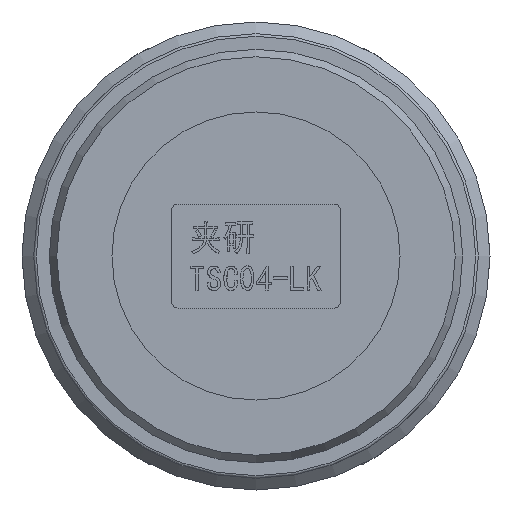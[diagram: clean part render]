
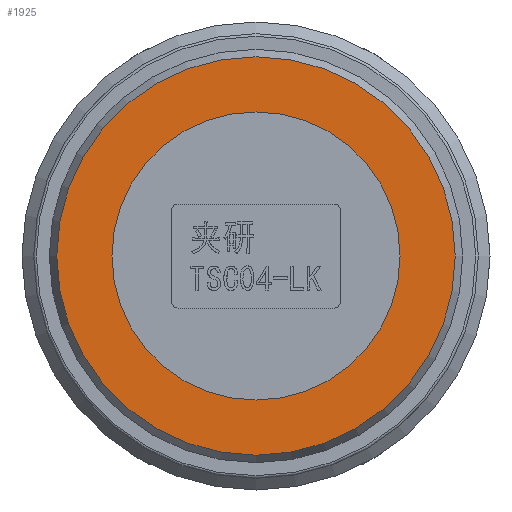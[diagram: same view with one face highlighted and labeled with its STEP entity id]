
A CAD part, front view. The second image highlights one B-rep face of the part: STEP entity #1925.
In plain terms, the highlighted planar face has unit normal (0, -1, 0).
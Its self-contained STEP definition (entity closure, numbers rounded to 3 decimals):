
#1925=ADVANCED_FACE('',(#2339,#2340),#2161,.T.);
#2161=PLANE('',#6190);
#2339=FACE_BOUND('',#2452,.T.);
#2340=FACE_BOUND('',#2453,.T.);
#2452=EDGE_LOOP('',(#2966));
#2453=EDGE_LOOP('',(#2967));
#2735=CIRCLE('',#6122,15.325);
#2736=CIRCLE('',#6124,11.08);
#2966=ORIENTED_EDGE('',*,*,#4599,.T.);
#2967=ORIENTED_EDGE('',*,*,#4600,.F.);
#4147=VERTEX_POINT('',#7493);
#4148=VERTEX_POINT('',#7496);
#4599=EDGE_CURVE('',#4147,#4147,#2735,.T.);
#4600=EDGE_CURVE('',#4148,#4148,#2736,.T.);
#6122=AXIS2_PLACEMENT_3D('',#7492,#6441,#6442);
#6124=AXIS2_PLACEMENT_3D('',#7495,#6445,#6446);
#6190=AXIS2_PLACEMENT_3D('',#8067,#6589,#6590);
#6441=DIRECTION('',(0.,-1.,0.));
#6442=DIRECTION('',(0.,0.,-1.));
#6445=DIRECTION('',(0.,-1.,0.));
#6446=DIRECTION('',(0.,0.,-1.));
#6589=DIRECTION('',(0.,-1.,0.));
#6590=DIRECTION('',(0.,0.,1.));
#7492=CARTESIAN_POINT('',(-14.954,0.3,0.));
#7493=CARTESIAN_POINT('',(-14.954,0.3,-15.325));
#7495=CARTESIAN_POINT('',(-14.954,0.3,0.));
#7496=CARTESIAN_POINT('',(-14.954,0.3,-11.08));
#8067=CARTESIAN_POINT('',(-26.034,0.3,0.));
